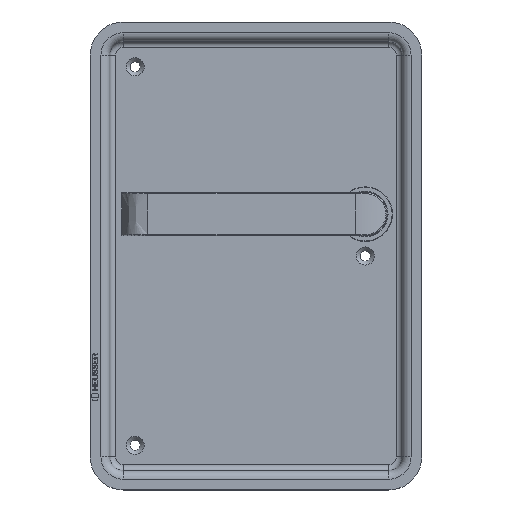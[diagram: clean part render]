
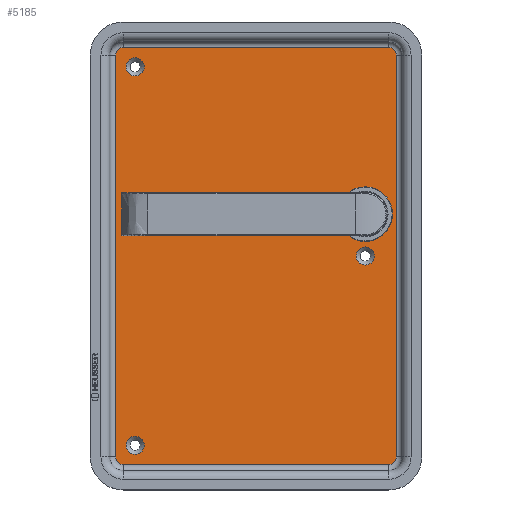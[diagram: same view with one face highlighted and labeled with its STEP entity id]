
A CAD part, top view. The second image highlights one B-rep face of the part: STEP entity #5185.
In plain terms, the highlighted planar face has unit normal (0, 0, 1).
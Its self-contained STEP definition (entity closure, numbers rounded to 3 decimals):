
#318=FACE_BOUND('',#1628,.T.);
#319=FACE_BOUND('',#1629,.T.);
#320=FACE_BOUND('',#1630,.T.);
#321=FACE_BOUND('',#1631,.T.);
#389=LINE('',#8207,#783);
#390=LINE('',#8211,#784);
#391=LINE('',#8215,#785);
#392=LINE('',#8219,#786);
#783=VECTOR('',#6187,10.);
#784=VECTOR('',#6190,10.);
#785=VECTOR('',#6193,10.);
#786=VECTOR('',#6196,10.);
#1280=FACE_OUTER_BOUND('',#1627,.T.);
#1627=EDGE_LOOP('',(#3506,#3507,#3508,#3509,#3510,#3511,#3512,#3513));
#1628=EDGE_LOOP('',(#3514));
#1629=EDGE_LOOP('',(#3515));
#1630=EDGE_LOOP('',(#3516));
#1631=EDGE_LOOP('',(#3517));
#1945=CIRCLE('',#5545,14.);
#1956=CIRCLE('',#5565,4.65);
#1957=CIRCLE('',#5567,4.);
#1958=CIRCLE('',#5568,4.);
#1959=CIRCLE('',#5569,4.);
#1960=CIRCLE('',#5570,4.);
#1961=CIRCLE('',#5571,4.65);
#1962=CIRCLE('',#5572,4.65);
#2141=VERTEX_POINT('',#8171);
#2152=VERTEX_POINT('',#8202);
#2153=VERTEX_POINT('',#8205);
#2154=VERTEX_POINT('',#8206);
#2155=VERTEX_POINT('',#8208);
#2156=VERTEX_POINT('',#8210);
#2157=VERTEX_POINT('',#8212);
#2158=VERTEX_POINT('',#8214);
#2159=VERTEX_POINT('',#8216);
#2160=VERTEX_POINT('',#8218);
#2161=VERTEX_POINT('',#8221);
#2162=VERTEX_POINT('',#8223);
#2655=EDGE_CURVE('',#2141,#2141,#1945,.T.);
#2666=EDGE_CURVE('',#2152,#2152,#1956,.T.);
#2667=EDGE_CURVE('',#2153,#2154,#389,.T.);
#2668=EDGE_CURVE('',#2155,#2153,#1957,.T.);
#2669=EDGE_CURVE('',#2156,#2155,#390,.T.);
#2670=EDGE_CURVE('',#2157,#2156,#1958,.T.);
#2671=EDGE_CURVE('',#2158,#2157,#391,.T.);
#2672=EDGE_CURVE('',#2159,#2158,#1959,.T.);
#2673=EDGE_CURVE('',#2160,#2159,#392,.T.);
#2674=EDGE_CURVE('',#2154,#2160,#1960,.T.);
#2675=EDGE_CURVE('',#2161,#2161,#1961,.T.);
#2676=EDGE_CURVE('',#2162,#2162,#1962,.T.);
#3506=ORIENTED_EDGE('',*,*,#2667,.F.);
#3507=ORIENTED_EDGE('',*,*,#2668,.F.);
#3508=ORIENTED_EDGE('',*,*,#2669,.F.);
#3509=ORIENTED_EDGE('',*,*,#2670,.F.);
#3510=ORIENTED_EDGE('',*,*,#2671,.F.);
#3511=ORIENTED_EDGE('',*,*,#2672,.F.);
#3512=ORIENTED_EDGE('',*,*,#2673,.F.);
#3513=ORIENTED_EDGE('',*,*,#2674,.F.);
#3514=ORIENTED_EDGE('',*,*,#2655,.T.);
#3515=ORIENTED_EDGE('',*,*,#2675,.F.);
#3516=ORIENTED_EDGE('',*,*,#2676,.F.);
#3517=ORIENTED_EDGE('',*,*,#2666,.F.);
#4695=PLANE('',#5566);
#5185=ADVANCED_FACE('',(#1280,#318,#319,#320,#321),#4695,.T.);
#5545=AXIS2_PLACEMENT_3D('',#8172,#6143,#6144);
#5565=AXIS2_PLACEMENT_3D('',#8203,#6183,#6184);
#5566=AXIS2_PLACEMENT_3D('',#8204,#6185,#6186);
#5567=AXIS2_PLACEMENT_3D('',#8209,#6188,#6189);
#5568=AXIS2_PLACEMENT_3D('',#8213,#6191,#6192);
#5569=AXIS2_PLACEMENT_3D('',#8217,#6194,#6195);
#5570=AXIS2_PLACEMENT_3D('',#8220,#6197,#6198);
#5571=AXIS2_PLACEMENT_3D('',#8222,#6199,#6200);
#5572=AXIS2_PLACEMENT_3D('',#8224,#6201,#6202);
#6143=DIRECTION('center_axis',(0.,0.,-1.));
#6144=DIRECTION('ref_axis',(1.,0.,0.));
#6183=DIRECTION('center_axis',(0.,0.,1.));
#6184=DIRECTION('ref_axis',(-1.,0.,0.));
#6185=DIRECTION('center_axis',(0.,0.,1.));
#6186=DIRECTION('ref_axis',(1.,0.,0.));
#6187=DIRECTION('',(0.,1.,0.));
#6188=DIRECTION('center_axis',(0.,0.,-1.));
#6189=DIRECTION('ref_axis',(-0.707,-0.707,0.));
#6190=DIRECTION('',(-1.,0.,0.));
#6191=DIRECTION('center_axis',(0.,0.,-1.));
#6192=DIRECTION('ref_axis',(0.707,-0.707,0.));
#6193=DIRECTION('',(0.,-1.,0.));
#6194=DIRECTION('center_axis',(0.,0.,-1.));
#6195=DIRECTION('ref_axis',(0.707,0.707,0.));
#6196=DIRECTION('',(1.,0.,0.));
#6197=DIRECTION('center_axis',(0.,0.,-1.));
#6198=DIRECTION('ref_axis',(-0.707,0.707,0.));
#6199=DIRECTION('center_axis',(0.,0.,1.));
#6200=DIRECTION('ref_axis',(-1.,0.,0.));
#6201=DIRECTION('center_axis',(0.,0.,1.));
#6202=DIRECTION('ref_axis',(-1.,0.,0.));
#8171=CARTESIAN_POINT('',(15.204,26.549,-9.));
#8172=CARTESIAN_POINT('Origin',(29.204,26.549,-9.));
#8202=CARTESIAN_POINT('',(33.854,5.049,-9.));
#8203=CARTESIAN_POINT('Origin',(29.204,5.049,-9.));
#8204=CARTESIAN_POINT('Origin',(-26.796,5.049,-9.));
#8205=CARTESIAN_POINT('',(-98.796,-97.951,-9.));
#8206=CARTESIAN_POINT('',(-98.796,108.049,-9.));
#8207=CARTESIAN_POINT('',(-98.796,-46.451,-9.));
#8208=CARTESIAN_POINT('',(-94.796,-101.951,-9.));
#8209=CARTESIAN_POINT('Origin',(-94.796,-97.951,-9.));
#8210=CARTESIAN_POINT('',(41.204,-101.951,-9.));
#8211=CARTESIAN_POINT('',(7.204,-101.951,-9.));
#8212=CARTESIAN_POINT('',(45.204,-97.951,-9.));
#8213=CARTESIAN_POINT('Origin',(41.204,-97.951,-9.));
#8214=CARTESIAN_POINT('',(45.204,108.049,-9.));
#8215=CARTESIAN_POINT('',(45.204,56.549,-9.));
#8216=CARTESIAN_POINT('',(41.204,112.049,-9.));
#8217=CARTESIAN_POINT('Origin',(41.204,108.049,-9.));
#8218=CARTESIAN_POINT('',(-94.796,112.049,-9.));
#8219=CARTESIAN_POINT('',(-60.796,112.049,-9.));
#8220=CARTESIAN_POINT('Origin',(-94.796,108.049,-9.));
#8221=CARTESIAN_POINT('',(-84.146,102.049,-9.));
#8222=CARTESIAN_POINT('Origin',(-88.796,102.049,-9.));
#8223=CARTESIAN_POINT('',(-84.146,-91.951,-9.));
#8224=CARTESIAN_POINT('Origin',(-88.796,-91.951,-9.));
